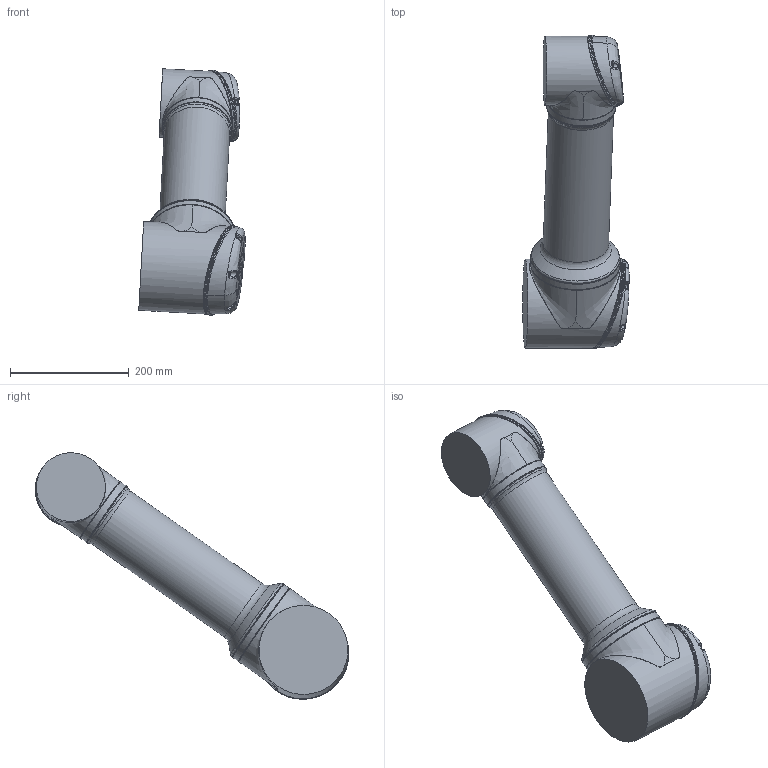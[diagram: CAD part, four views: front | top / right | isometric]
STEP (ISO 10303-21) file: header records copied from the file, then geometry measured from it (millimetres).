
FILE_DESCRIPTION(/* description */ ('STEP AP242 Edition 2','CAx-IF Rec.Pracs.---Representation and Presentation of Product Manufacturing Information (PMI)---4.0---2014-10-13','CAx-IF Rec.Pracs.---3D Tessellated Geometry---0.4---2014-09-14','2;1','CAx-IF Rec.Pracs.---User Defined Attributes---1.5---2016-08-15'),/* implementation_level */ '2;1');
FILE_NAME(/* name */ 'Assembly 1 - Link_2__Imported1',/* time_stamp */ '2026-08-25T13:00:45Z',/* author */ (''),/* organization */ (''),/* preprocessor_version */ 'ST-DEVELOPER v20',/* originating_system */ 'ONSHAPE BY PTC INC, 1.219',/* authorisation */ ' ');
FILE_SCHEMA (('AP242_MANAGED_MODEL_BASED_3D_ENGINEERING_MIM_LF { 1 0 10303 442 3 1 4 }'));
Length unit declared in the file: metre
Products named in the file (1): Link_2__Imported1
Bounding box: 179.07 x 527.68 x 414.42 mm (x, y, z)
Volume: 8096507.9 mm3; surface area: 291333.8 mm2
Topology: 1 solids, 1 shells, 693 faces, 2020 edges, 1344 vertices
Faces by surface type: bspline 228, cylinder 222, cone 95, torus 74, plane 50, sphere 24
Full cylindrical faces by diameter (mm): 5.6 x10, 110 x1, 116 x4, 150 x4
Entity records: 48569 total; most frequent: CARTESIAN_POINT 32461, ORIENTED_EDGE 3830, EDGE_CURVE 1915, B_SPLINE_CURVE_WITH_KNOTS 1530, DIRECTION 1482, VERTEX_POINT 1322, FACE_BOUND 787, EDGE_LOOP 776
